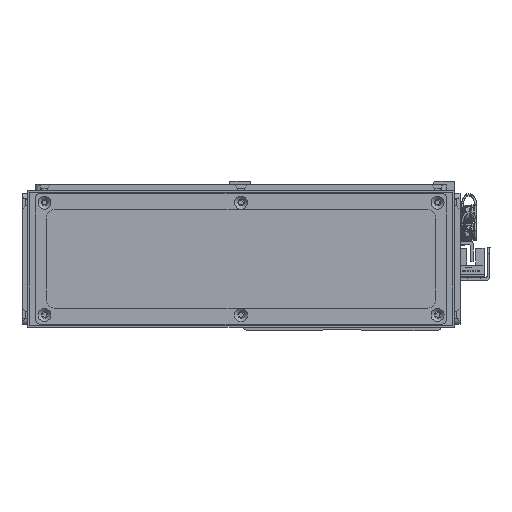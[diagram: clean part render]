
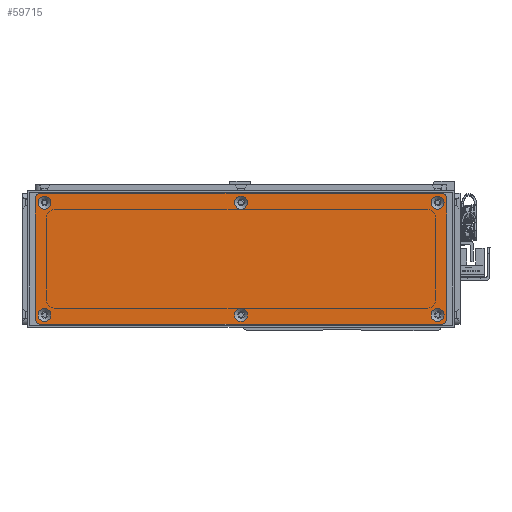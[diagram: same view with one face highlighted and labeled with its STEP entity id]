
A CAD part, front view. The second image highlights one B-rep face of the part: STEP entity #59715.
In plain terms, the highlighted planar face has unit normal (0, -1, 0).
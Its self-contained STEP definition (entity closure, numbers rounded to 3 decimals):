
#2732=FACE_BOUND('',#10483,.T.);
#2733=FACE_BOUND('',#10484,.T.);
#2734=FACE_BOUND('',#10485,.T.);
#2735=FACE_BOUND('',#10486,.T.);
#2736=FACE_BOUND('',#10487,.T.);
#2737=FACE_BOUND('',#10488,.T.);
#4104=CIRCLE('',#64468,3.45);
#4107=CIRCLE('',#64473,3.45);
#4110=CIRCLE('',#64478,3.45);
#4113=CIRCLE('',#64483,3.45);
#4116=CIRCLE('',#64488,3.45);
#4119=CIRCLE('',#64493,3.45);
#4122=CIRCLE('',#64498,3.);
#4124=CIRCLE('',#64501,3.);
#4125=CIRCLE('',#64502,3.);
#4126=CIRCLE('',#64503,3.);
#7057=FACE_OUTER_BOUND('',#10482,.T.);
#10482=EDGE_LOOP('',(#54091,#54092,#54093,#54094,#54095,#54096,#54097,#54098));
#10483=EDGE_LOOP('',(#54099));
#10484=EDGE_LOOP('',(#54100));
#10485=EDGE_LOOP('',(#54101));
#10486=EDGE_LOOP('',(#54102));
#10487=EDGE_LOOP('',(#54103));
#10488=EDGE_LOOP('',(#54104));
#17055=LINE('',#100167,#23659);
#17056=LINE('',#100171,#23660);
#17057=LINE('',#100175,#23661);
#17058=LINE('',#100178,#23662);
#23659=VECTOR('',#79684,10.);
#23660=VECTOR('',#79687,10.);
#23661=VECTOR('',#79690,10.);
#23662=VECTOR('',#79693,10.);
#29278=VERTEX_POINT('',#100097);
#29281=VERTEX_POINT('',#100107);
#29284=VERTEX_POINT('',#100117);
#29287=VERTEX_POINT('',#100127);
#29290=VERTEX_POINT('',#100137);
#29293=VERTEX_POINT('',#100147);
#29296=VERTEX_POINT('',#100157);
#29297=VERTEX_POINT('',#100158);
#29300=VERTEX_POINT('',#100166);
#29301=VERTEX_POINT('',#100168);
#29302=VERTEX_POINT('',#100170);
#29303=VERTEX_POINT('',#100172);
#29304=VERTEX_POINT('',#100174);
#29305=VERTEX_POINT('',#100176);
#37569=EDGE_CURVE('',#29278,#29278,#4104,.T.);
#37574=EDGE_CURVE('',#29281,#29281,#4107,.T.);
#37579=EDGE_CURVE('',#29284,#29284,#4110,.T.);
#37584=EDGE_CURVE('',#29287,#29287,#4113,.T.);
#37589=EDGE_CURVE('',#29290,#29290,#4116,.T.);
#37594=EDGE_CURVE('',#29293,#29293,#4119,.T.);
#37599=EDGE_CURVE('',#29296,#29297,#4122,.T.);
#37603=EDGE_CURVE('',#29296,#29300,#17055,.T.);
#37604=EDGE_CURVE('',#29301,#29300,#4124,.T.);
#37605=EDGE_CURVE('',#29301,#29302,#17056,.T.);
#37606=EDGE_CURVE('',#29303,#29302,#4125,.T.);
#37607=EDGE_CURVE('',#29303,#29304,#17057,.T.);
#37608=EDGE_CURVE('',#29305,#29304,#4126,.T.);
#37609=EDGE_CURVE('',#29305,#29297,#17058,.T.);
#54091=ORIENTED_EDGE('',*,*,#37599,.F.);
#54092=ORIENTED_EDGE('',*,*,#37603,.T.);
#54093=ORIENTED_EDGE('',*,*,#37604,.F.);
#54094=ORIENTED_EDGE('',*,*,#37605,.T.);
#54095=ORIENTED_EDGE('',*,*,#37606,.F.);
#54096=ORIENTED_EDGE('',*,*,#37607,.T.);
#54097=ORIENTED_EDGE('',*,*,#37608,.F.);
#54098=ORIENTED_EDGE('',*,*,#37609,.T.);
#54099=ORIENTED_EDGE('',*,*,#37569,.T.);
#54100=ORIENTED_EDGE('',*,*,#37574,.T.);
#54101=ORIENTED_EDGE('',*,*,#37579,.T.);
#54102=ORIENTED_EDGE('',*,*,#37584,.T.);
#54103=ORIENTED_EDGE('',*,*,#37589,.T.);
#54104=ORIENTED_EDGE('',*,*,#37594,.T.);
#56805=PLANE('',#64500);
#59715=ADVANCED_FACE('',(#7057,#2732,#2733,#2734,#2735,#2736,#2737),#56805,
 .T.);
#64468=AXIS2_PLACEMENT_3D('',#100098,#79604,#79605);
#64473=AXIS2_PLACEMENT_3D('',#100108,#79616,#79617);
#64478=AXIS2_PLACEMENT_3D('',#100118,#79628,#79629);
#64483=AXIS2_PLACEMENT_3D('',#100128,#79640,#79641);
#64488=AXIS2_PLACEMENT_3D('',#100138,#79652,#79653);
#64493=AXIS2_PLACEMENT_3D('',#100148,#79664,#79665);
#64498=AXIS2_PLACEMENT_3D('',#100159,#79676,#79677);
#64500=AXIS2_PLACEMENT_3D('',#100165,#79682,#79683);
#64501=AXIS2_PLACEMENT_3D('',#100169,#79685,#79686);
#64502=AXIS2_PLACEMENT_3D('',#100173,#79688,#79689);
#64503=AXIS2_PLACEMENT_3D('',#100177,#79691,#79692);
#79604=DIRECTION('center_axis',(0.,1.,0.));
#79605=DIRECTION('ref_axis',(1.,0.,0.));
#79616=DIRECTION('center_axis',(0.,1.,0.));
#79617=DIRECTION('ref_axis',(1.,0.,0.));
#79628=DIRECTION('center_axis',(0.,1.,0.));
#79629=DIRECTION('ref_axis',(1.,0.,0.));
#79640=DIRECTION('center_axis',(0.,1.,0.));
#79641=DIRECTION('ref_axis',(1.,0.,0.));
#79652=DIRECTION('center_axis',(0.,1.,0.));
#79653=DIRECTION('ref_axis',(1.,0.,0.));
#79664=DIRECTION('center_axis',(0.,1.,0.));
#79665=DIRECTION('ref_axis',(1.,0.,0.));
#79676=DIRECTION('center_axis',(0.,1.,0.));
#79677=DIRECTION('ref_axis',(-0.707,0.,0.707));
#79682=DIRECTION('center_axis',(0.,-1.,0.));
#79683=DIRECTION('ref_axis',(0.,0.,-1.));
#79684=DIRECTION('',(0.,0.,-1.));
#79685=DIRECTION('center_axis',(0.,1.,0.));
#79686=DIRECTION('ref_axis',(-0.707,0.,-0.707));
#79687=DIRECTION('',(1.,0.,0.));
#79688=DIRECTION('center_axis',(0.,1.,0.));
#79689=DIRECTION('ref_axis',(0.707,0.,-0.707));
#79690=DIRECTION('',(0.,0.,1.));
#79691=DIRECTION('center_axis',(0.,1.,0.));
#79692=DIRECTION('ref_axis',(0.707,0.,0.707));
#79693=DIRECTION('',(-1.,0.,0.));
#100097=CARTESIAN_POINT('',(101.55,-1.5,30.));
#100098=CARTESIAN_POINT('Origin',(105.,-1.5,30.));
#100107=CARTESIAN_POINT('',(-3.45,-1.5,-30.));
#100108=CARTESIAN_POINT('Origin',(0.,-1.5,-30.));
#100117=CARTESIAN_POINT('',(-108.45,-1.5,30.));
#100118=CARTESIAN_POINT('Origin',(-105.,-1.5,30.));
#100127=CARTESIAN_POINT('',(-108.45,-1.5,-30.));
#100128=CARTESIAN_POINT('Origin',(-105.,-1.5,-30.));
#100137=CARTESIAN_POINT('',(-3.45,-1.5,30.));
#100138=CARTESIAN_POINT('Origin',(0.,-1.5,30.));
#100147=CARTESIAN_POINT('',(101.55,-1.5,-30.));
#100148=CARTESIAN_POINT('Origin',(105.,-1.5,-30.));
#100157=CARTESIAN_POINT('',(-110.,-1.5,32.));
#100158=CARTESIAN_POINT('',(-107.,-1.5,35.));
#100159=CARTESIAN_POINT('Origin',(-107.,-1.5,32.));
#100165=CARTESIAN_POINT('Origin',(0.,-1.5,0.));
#100166=CARTESIAN_POINT('',(-110.,-1.5,-32.));
#100167=CARTESIAN_POINT('',(-110.,-1.5,35.));
#100168=CARTESIAN_POINT('',(-107.,-1.5,-35.));
#100169=CARTESIAN_POINT('Origin',(-107.,-1.5,-32.));
#100170=CARTESIAN_POINT('',(107.,-1.5,-35.));
#100171=CARTESIAN_POINT('',(-110.,-1.5,-35.));
#100172=CARTESIAN_POINT('',(110.,-1.5,-32.));
#100173=CARTESIAN_POINT('Origin',(107.,-1.5,-32.));
#100174=CARTESIAN_POINT('',(110.,-1.5,32.));
#100175=CARTESIAN_POINT('',(110.,-1.5,-35.));
#100176=CARTESIAN_POINT('',(107.,-1.5,35.));
#100177=CARTESIAN_POINT('Origin',(107.,-1.5,32.));
#100178=CARTESIAN_POINT('',(110.,-1.5,35.));
